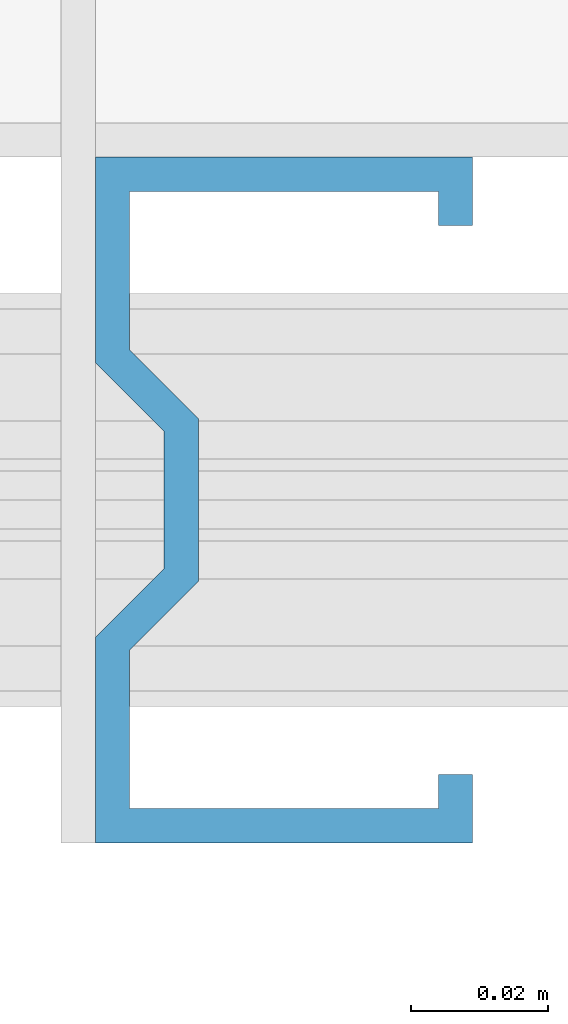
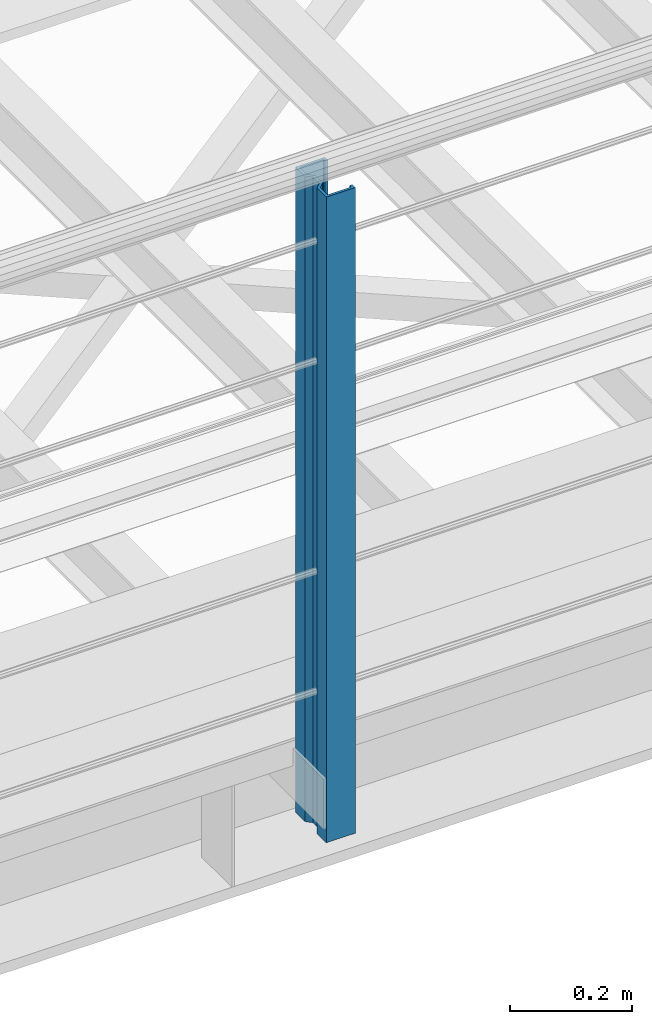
# One storey, part 8 of 31: 1 beam.
"""IFC2X3 building model written with IfcOpenShell, lengths in millimetres."""

import ifcopenshell
import ifcopenshell.guid

model = None  # the IFC model being written
_history = None  # IfcOwnerHistory: only IFC2X3 demands one
_inside = {}  # id of a spatial element -> (the spatial element, [elements in it])
_under = {}  # id of a project, library or spatial element -> (it, [spatial elements below it])
_declared = {}  # id of a project -> (the project, [libraries it declares])
_typed = {}  # id of a type object -> (the type object, [elements of that type])
_made_of = {}  # id of a material, layer set ... -> (it, [elements and type objects made of it])


def new_model(schema):
    """Start an empty IFC model of exactly this schema.

    Asked for "IFC4X3", IfcOpenShell would pick the latest addendum, in which some entities
    have other attributes; the version numbers below select the first issue.
    IFC2X3 requires an IfcOwnerHistory on every rooted entity: one is made here for all.
    """
    global model, _history
    if schema == "IFC4X3":
        model = ifcopenshell.file(schema_version=(4, 3, 0, 0))
    else:
        model = ifcopenshell.file(schema=schema)
    _inside.clear()
    _under.clear()
    _declared.clear()
    _typed.clear()
    _made_of.clear()
    _history = None
    if model.schema == "IFC2X3":
        org = make("IfcOrganization", Name="unknown")
        user = make(
            "IfcPersonAndOrganization",
            ThePerson=make("IfcPerson", FamilyName="unknown"),
            TheOrganization=org,
        )
        app = make(
            "IfcApplication",
            ApplicationDeveloper=org,
            Version="unknown",
            ApplicationFullName="unknown",
            ApplicationIdentifier="unknown",
        )
        _history = make(
            "IfcOwnerHistory",
            OwningUser=user,
            OwningApplication=app,
            ChangeAction="ADDED",
            CreationDate=0,
        )
    return model


def make(cls, **values):
    """One entity of the class cls with the attributes given. An attribute that is None is left unset."""
    return model.create_entity(
        cls, **{name: value for name, value in values.items() if value is not None}
    )


def rooted(cls, **values):
    """An entity with a GlobalId (a new one), such as an element, a storey or a relation."""
    return make(cls, GlobalId=ifcopenshell.guid.new(), OwnerHistory=_history, **values)


def si_unit(unit_type, name, prefix=None):
    """IfcSIUnit, for example si_unit("LENGTHUNIT", "METRE", prefix="MILLI")."""
    return make("IfcSIUnit", UnitType=unit_type, Prefix=prefix, Name=name)


def assignment(units):
    """IfcUnitAssignment: the units of a project."""
    return None if units is None else make("IfcUnitAssignment", Units=units)


def point(xyz):
    """IfcCartesianPoint."""
    return None if xyz is None else make("IfcCartesianPoint", Coordinates=xyz)


def direction(xyz):
    """IfcDirection."""
    return None if xyz is None else make("IfcDirection", DirectionRatios=xyz)


def frame(location, z_axis=None, x_axis=None):
    """IfcAxis2Placement3D, a coordinate frame: its origin and axes. An axis left out is left unset."""
    return make(
        "IfcAxis2Placement3D",
        Location=point(location),
        Axis=direction(z_axis),
        RefDirection=direction(x_axis),
    )


def origin_with_axes():
    """The frame at (0, 0, 0) with the z axis (0, 0, 1) and the x axis (1, 0, 0) written out."""
    return frame((0.0, 0.0, 0.0), z_axis=(0.0, 0.0, 1.0), x_axis=(1.0, 0.0, 0.0))


def place(relative_to, where):
    """IfcLocalPlacement: puts the frame where relative to a parent placement (None: the world)."""
    return make(
        "IfcLocalPlacement", PlacementRelTo=relative_to, RelativePlacement=where
    )


def context(
    kind, dimensions, precision=None, world=None, true_north=None, identifier=None
):
    """IfcGeometricRepresentationContext, for example the 3D "Model" context."""
    return make(
        "IfcGeometricRepresentationContext",
        ContextIdentifier=identifier,
        ContextType=kind,
        CoordinateSpaceDimension=dimensions,
        Precision=precision,
        WorldCoordinateSystem=world,
        TrueNorth=true_north,
    )


def subcontext(parent, identifier, kind, view, scale=None):
    """IfcGeometricRepresentationSubContext, for example "Body" below "Model"."""
    return make(
        "IfcGeometricRepresentationSubContext",
        ContextIdentifier=identifier,
        ContextType=kind,
        ParentContext=parent,
        TargetScale=scale,
        TargetView=view,
    )


def project(units=None, contexts=None):
    """IfcProject with its units and contexts."""
    return rooted(
        "IfcProject",
        Name="project",
        RepresentationContexts=contexts,
        UnitsInContext=assignment(units),
    )


def spatial(cls, under=None, at=None, **own):
    """A site, building, storey or space (cls), placed at a placement, below another one or the project."""
    s = rooted(cls, ObjectPlacement=at, **own)
    if under is not None:
        _under.setdefault(under.id(), (under, []))[1].append(s)
    return s


def faces_of(points, faces, orient=None, outer=None):
    """IfcFace entities. A face is a list of loops; a loop is a list of indices into points, from 0.

    orient and outer hold one flag for each loop. By default every Orientation is true, the
    first loop of a face is its IfcFaceOuterBound and the others are IfcFaceBound.
    """
    made = []
    for i, loops in enumerate(faces):
        bounds = []
        for j, loop in enumerate(loops):
            is_outer = j == 0 if outer is None else outer[i][j]
            bounds.append(
                make(
                    "IfcFaceOuterBound" if is_outer else "IfcFaceBound",
                    Bound=make("IfcPolyLoop", Polygon=[points[k] for k in loop]),
                    Orientation=True if orient is None else orient[i][j],
                )
            )
        made.append(make("IfcFace", Bounds=bounds))
    return made


def faceted_brep(points, faces, orient=None, outer=None, voids=None):
    """IfcFacetedBrep: a solid bounded by flat faces; with voids (closed shells), ...WithVoids."""
    shared = [point(p) for p in points]
    hull = make("IfcClosedShell", CfsFaces=faces_of(shared, faces, orient, outer))
    if voids is None:
        return make("IfcFacetedBrep", Outer=hull)
    return make(
        "IfcFacetedBrepWithVoids",
        Outer=hull,
        Voids=[
            make(cls, CfsFaces=faces_of(shared, fs, o, b)) for cls, fs, o, b in voids
        ],
    )


def shape(context_of_items, identifier, shape_type, items):
    """IfcShapeRepresentation: the items that make up one representation, for example the "Body"."""
    return make(
        "IfcShapeRepresentation",
        ContextOfItems=context_of_items,
        RepresentationIdentifier=identifier,
        RepresentationType=shape_type,
        Items=items,
    )


def material(Name=None, Category=None):
    """IfcMaterial."""
    return make("IfcMaterial", Name=Name, Category=Category)


def made_of(thing, what):
    """Note that an element or type object is made of a material, layer set ...; save() writes the relation."""
    if what is not None:
        _made_of.setdefault(what.id(), (what, []))[1].append(thing)
    return thing


def type_object(cls, material=None, **own):
    """A type object (cls), such as IfcWallType, which elements share."""
    return made_of(rooted(cls, **own), material)


def element(
    cls,
    number,
    at=None,
    inside=None,
    cuts=None,
    type_object=None,
    material=None,
    context=None,
    identifier="Body",
    shape_type=None,
    held_by="IfcProductDefinitionShape",
    body=None,
    shapes=None,
    **own,
):
    """One element of the class cls, such as IfcWall. Its Tag is "e" and its number.

    at: its placement. inside: the storey or other place that contains it. cuts: it is an
    opening in that element (IfcRelVoidsElement). A single representation is given by context,
    identifier, shape_type and body (its items); several are given by shapes. held_by: the class
    of the entity that holds the representations. save() writes the other relations.
    """
    e = rooted(cls, Tag="e%d" % number, ObjectPlacement=at, **own)
    if body is not None:
        shapes = [shape(context, identifier, shape_type, body)]
    if shapes is not None:
        e.Representation = make(held_by, Representations=shapes)
    if inside is not None:
        _inside.setdefault(inside.id(), (inside, []))[1].append(e)
    if cuts is not None:
        rooted(
            "IfcRelVoidsElement", RelatingBuildingElement=cuts, RelatedOpeningElement=e
        )
    if type_object is not None:
        _typed.setdefault(type_object.id(), (type_object, []))[1].append(e)
    return made_of(e, material)


def aggregate(whole, parts):
    """IfcRelAggregates: a whole, such as a stair, and the parts it consists of."""
    return rooted("IfcRelAggregates", RelatingObject=whole, RelatedObjects=parts)


def save(model, path):
    """Write the relations noted so far, then the file.

    IfcRelAggregates (storeys below a building ...), IfcRelContainedInSpatialStructure (elements
    in a storey), IfcRelDefinesByType, IfcRelAssociatesMaterial and IfcRelDeclares: one each for
    every whole, place, type object, material and project.
    """
    for whole, parts in _under.values():
        aggregate(whole, parts)
    for where, things in _inside.values():
        rooted(
            "IfcRelContainedInSpatialStructure",
            RelatedElements=things,
            RelatingStructure=where,
        )
    for kind, things in _typed.values():
        rooted("IfcRelDefinesByType", RelatedObjects=things, RelatingType=kind)
    for what, things in _made_of.values():
        rooted("IfcRelAssociatesMaterial", RelatedObjects=things, RelatingMaterial=what)
    for by, libraries in _declared.values():
        rooted("IfcRelDeclares", RelatingContext=by, RelatedDefinitions=libraries)
    model.write(path)


model = new_model("IFC2X3")

# Units and contexts
model_context = context("Model", 3, precision=1e-05, world=origin_with_axes())
body_context = subcontext(model_context, "Body", "Model", "MODEL_VIEW")
ifc_project = project(units=[si_unit("LENGTHUNIT", "METRE", prefix="MILLI"), si_unit("AREAUNIT", "SQUARE_METRE"), si_unit("VOLUMEUNIT", "CUBIC_METRE"), si_unit("MASSUNIT", "GRAM", prefix="KILO"), si_unit("TIMEUNIT", "SECOND"), si_unit("PLANEANGLEUNIT", "RADIAN"), si_unit("SOLIDANGLEUNIT", "STERADIAN"), si_unit("THERMODYNAMICTEMPERATUREUNIT", "DEGREE_CELSIUS"), si_unit("LUMINOUSINTENSITYUNIT", "LUMEN")], contexts=[model_context])

# Site, building, storey
site_placement = place(None, origin_with_axes())
site = spatial("IfcSite", under=ifc_project, at=site_placement, Name="Undefined", CompositionType="ELEMENT")
building_placement = place(site_placement, origin_with_axes())
building = spatial("IfcBuilding", under=site, at=building_placement, Name="Undefined", CompositionType="ELEMENT")
storey_placement = place(building_placement, origin_with_axes())
storey = spatial("IfcBuildingStorey", under=building, at=storey_placement, Name="Undefined", CompositionType="ELEMENT", Elevation=0.0)

# Beam
ifc_material = material(Name="STEEL/S355J2+N")
beam_type = type_object("IfcBeamType", Name="CW100-5-10*55-10-30", PredefinedType="NOTDEFINED")
beam_placement = place(storey_placement, frame((11427.5, -400.0, 1140.0), z_axis=(0.0, 1.0, 0.0), x_axis=(0.0, 0.0, -1.0)))
element("IfcBeam", 1, at=beam_placement, inside=storey, type_object=beam_type, material=ifc_material, Name="STOLPE", context=body_context, shape_type="Brep", body=[
    faceted_brep([(0.0, -27.5, -50.0), (0.0, 27.5, -50.0), (1290.0, 27.5, -50.0), (1290.0, -27.5, -50.0), (0.0, 27.5, -20.0), (1290.0, 27.5, -20.0), (0.0, 17.5, -10.0), (1290.0, 17.5, -10.0), (0.0, 17.5, 10.0), (1290.0, 17.5, 10.0), (0.0, 27.5, 20.0), (1290.0, 27.5, 20.0), (0.0, 27.5, 50.0), (1290.0, 27.5, 50.0), (0.0, -27.5, 50.0), (1290.0, -27.5, 50.0), (0.0, -27.5, 40.0), (1290.0, -27.5, 40.0), (0.0, -22.5, 40.0), (1290.0, -22.5, 40.0), (0.0, -22.5, 45.0), (1290.0, -22.5, 45.0), (0.0, 22.5, 45.0), (1290.0, 22.5, 45.0), (0.0, 22.5, 21.9149999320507), (1290.0, 22.5, 21.9149999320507), (0.0, 12.5, 11.9149999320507), (1290.0, 12.5, 11.9149999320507), (0.0, 12.5, -11.9149999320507), (1290.0, 12.5, -11.9149999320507), (0.0, 22.5, -21.9149999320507), (1290.0, 22.5, -21.9149999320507), (0.0, 22.5, -45.0), (1290.0, 22.5, -45.0), (0.0, -22.5, -45.0), (1290.0, -22.5, -45.0), (0.0, -22.5, -40.0), (1290.0, -22.5, -40.0), (0.0, -27.5, -40.0), (1290.0, -27.5, -40.0)], [[[0, 1, 2, 3]], [[1, 4, 5, 2]], [[4, 6, 7, 5]], [[6, 8, 9, 7]], [[8, 10, 11, 9]], [[10, 12, 13, 11]], [[12, 14, 15, 13]], [[14, 16, 17, 15]], [[16, 18, 19, 17]], [[18, 20, 21, 19]], [[20, 22, 23, 21]], [[22, 24, 25, 23]], [[24, 26, 27, 25]], [[26, 28, 29, 27]], [[28, 30, 31, 29]], [[30, 32, 33, 31]], [[32, 34, 35, 33]], [[34, 36, 37, 35]], [[36, 38, 39, 37]], [[38, 0, 3, 39]], [[5, 7, 9, 11, 13, 15, 17, 19, 21, 23, 25, 27, 29, 31, 33, 35, 37, 39, 3, 2]], [[38, 36, 34, 32, 30, 28, 26, 24, 22, 20, 18, 16, 14, 12, 10, 8, 6, 4, 1, 0]]]),
])

save(model, "model.ifc")
